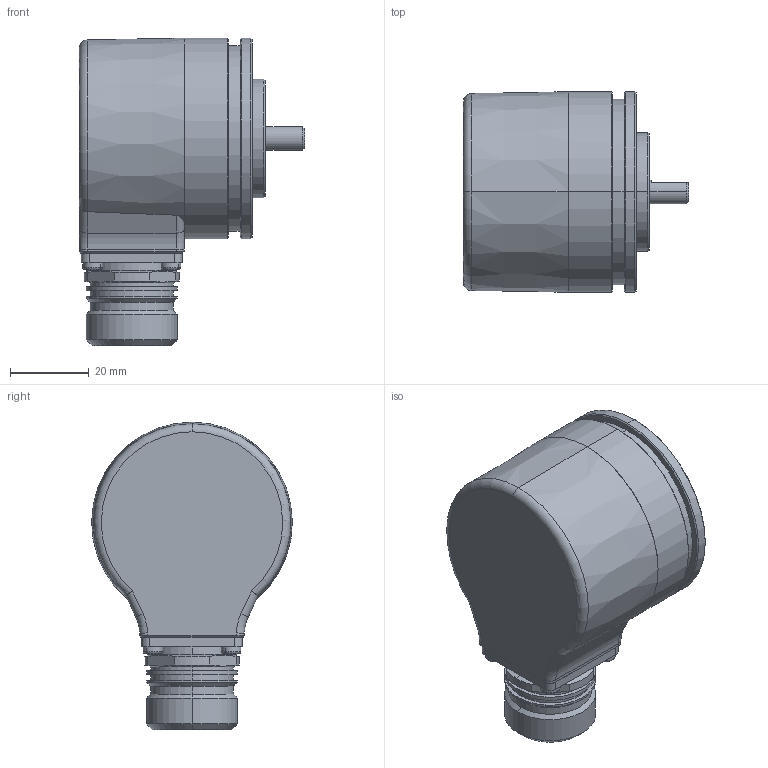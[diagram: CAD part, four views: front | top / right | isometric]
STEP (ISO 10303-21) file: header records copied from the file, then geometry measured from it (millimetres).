
FILE_DESCRIPTION (( 'STEP AP214' ), '1' );
FILE_NAME ('5000.61X8XXXX.STEP', '2008-11-28T11:45:11', ( 'admin' ), ( 'Fritz Kübler GmbH' ), 'SwSTEP 2.0', 'SolidWorks 2008', '' );
FILE_SCHEMA (( 'AUTOMOTIVE_DESIGN' ));
Length unit declared in the file: millimetre
Products named in the file (1): 5000.61X8XXXX
Bounding box: 57 x 50.8 x 77.9 mm (x, y, z)
Volume: 56893.2 mm3; surface area: 38373 mm2
Topology: 22 solids, 25 shells, 883 faces, 2004 edges, 1204 vertices
Faces by surface type: cylinder 364, plane 215, cone 149, torus 89, sphere 56, bspline 10
Entity records: 35247 total; most frequent: CARTESIAN_POINT 5228, DIRECTION 4670, ORIENTED_EDGE 3828, AXIS2_PLACEMENT_3D 1986, EDGE_CURVE 1914, VERTEX_POINT 1174, CIRCLE 1112, EDGE_LOOP 1042
